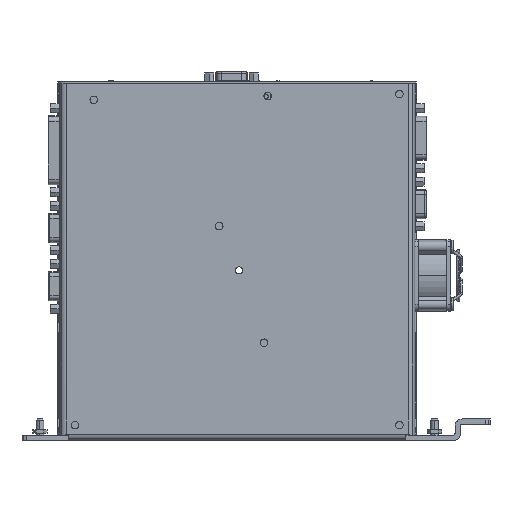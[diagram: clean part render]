
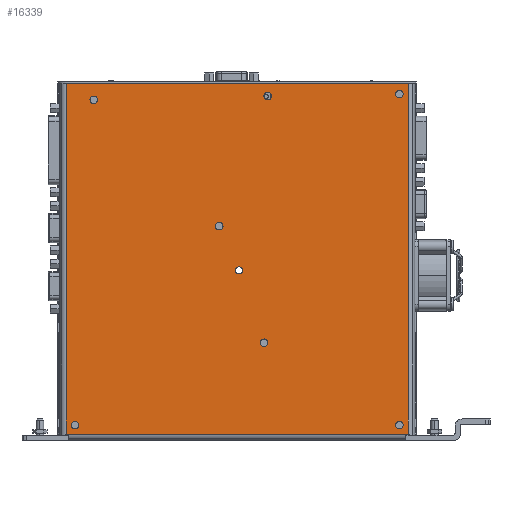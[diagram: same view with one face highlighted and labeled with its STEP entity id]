
A CAD part, left-side view. The second image highlights one B-rep face of the part: STEP entity #16339.
In plain terms, the highlighted planar face has unit normal (-1, 0, 0).
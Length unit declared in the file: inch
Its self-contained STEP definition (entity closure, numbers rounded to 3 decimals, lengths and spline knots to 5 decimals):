
#16339=ADVANCED_FACE('',(#38006,#38007,#38008,#38009,#38010,#38011,#38012,#38013,#38014),#38015,.T.);
#38006=FACE_OUTER_BOUND('',#75015,.T.);
#38007=FACE_BOUND('',#75016,.T.);
#38008=FACE_BOUND('',#75017,.T.);
#38009=FACE_BOUND('',#75018,.T.);
#38010=FACE_BOUND('',#75019,.T.);
#38011=FACE_BOUND('',#75020,.T.);
#38012=FACE_BOUND('',#75021,.T.);
#38013=FACE_BOUND('',#75022,.T.);
#38014=FACE_BOUND('',#75023,.T.);
#38015=PLANE('',#75024);
#75015=EDGE_LOOP('',(#137930,#137931,#137932,#137933));
#75016=EDGE_LOOP('',(#137934,#137935));
#75017=EDGE_LOOP('',(#137936,#137937));
#75018=EDGE_LOOP('',(#137938,#137939));
#75019=EDGE_LOOP('',(#137940,#137941));
#75020=EDGE_LOOP('',(#137942,#137943));
#75021=EDGE_LOOP('',(#137944,#137945));
#75022=EDGE_LOOP('',(#137946,#137947));
#75023=EDGE_LOOP('',(#137948,#137949));
#75024=AXIS2_PLACEMENT_3D('',#137950,#137951,#137952);
#137930=ORIENTED_EDGE('',*,*,#202409,.F.);
#137931=ORIENTED_EDGE('',*,*,#202410,.F.);
#137932=ORIENTED_EDGE('',*,*,#188056,.F.);
#137933=ORIENTED_EDGE('',*,*,#202411,.F.);
#137934=ORIENTED_EDGE('',*,*,#201137,.T.);
#137935=ORIENTED_EDGE('',*,*,#190752,.T.);
#137936=ORIENTED_EDGE('',*,*,#202412,.T.);
#137937=ORIENTED_EDGE('',*,*,#190905,.T.);
#137938=ORIENTED_EDGE('',*,*,#200509,.F.);
#137939=ORIENTED_EDGE('',*,*,#202413,.F.);
#137940=ORIENTED_EDGE('',*,*,#190064,.F.);
#137941=ORIENTED_EDGE('',*,*,#193921,.F.);
#137942=ORIENTED_EDGE('',*,*,#188835,.F.);
#137943=ORIENTED_EDGE('',*,*,#202414,.F.);
#137944=ORIENTED_EDGE('',*,*,#202415,.F.);
#137945=ORIENTED_EDGE('',*,*,#202416,.F.);
#137946=ORIENTED_EDGE('',*,*,#202417,.F.);
#137947=ORIENTED_EDGE('',*,*,#202418,.F.);
#137948=ORIENTED_EDGE('',*,*,#188224,.F.);
#137949=ORIENTED_EDGE('',*,*,#199164,.F.);
#137950=CARTESIAN_POINT('',(-0.17717,5.55118,3.26764));
#137951=DIRECTION('',(-1.0,0.0,0.0));
#137952=DIRECTION('',(0.0,0.0,1.0));
#188056=EDGE_CURVE('',#220556,#220558,#220559,.T.);
#188224=EDGE_CURVE('',#220848,#220843,#220850,.T.);
#188835=EDGE_CURVE('',#221915,#221910,#221917,.T.);
#190064=EDGE_CURVE('',#224104,#224099,#224106,.T.);
#190752=EDGE_CURVE('',#225298,#225296,#225299,.T.);
#190905=EDGE_CURVE('',#225565,#225562,#225566,.T.);
#193921=EDGE_CURVE('',#224099,#224104,#230665,.T.);
#199164=EDGE_CURVE('',#220843,#220848,#238930,.T.);
#200509=EDGE_CURVE('',#240979,#240977,#240981,.T.);
#201137=EDGE_CURVE('',#225296,#225298,#241937,.T.);
#202409=EDGE_CURVE('',#243911,#243912,#243913,.T.);
#202410=EDGE_CURVE('',#220558,#243911,#243914,.T.);
#202411=EDGE_CURVE('',#243912,#220556,#243915,.T.);
#202412=EDGE_CURVE('',#225562,#225565,#243916,.T.);
#202413=EDGE_CURVE('',#240977,#240979,#243917,.T.);
#202414=EDGE_CURVE('',#221910,#221915,#243918,.T.);
#202415=EDGE_CURVE('',#243919,#243920,#243921,.T.);
#202416=EDGE_CURVE('',#243920,#243919,#243922,.T.);
#202417=EDGE_CURVE('',#243923,#243924,#243925,.T.);
#202418=EDGE_CURVE('',#243924,#243923,#243926,.T.);
#220556=VERTEX_POINT('',#267446);
#220558=VERTEX_POINT('',#267448);
#220559=LINE('',#267449,#267450);
#220843=VERTEX_POINT('',#267838);
#220848=VERTEX_POINT('',#267844);
#220850=CIRCLE('',#267847,0.08268);
#221910=VERTEX_POINT('',#269366);
#221915=VERTEX_POINT('',#269372);
#221917=CIRCLE('',#269375,0.08268);
#224099=VERTEX_POINT('',#272659);
#224104=VERTEX_POINT('',#272665);
#224106=CIRCLE('',#272668,0.08268);
#225296=VERTEX_POINT('',#274426);
#225298=VERTEX_POINT('',#274429);
#225299=CIRCLE('',#274430,0.08268);
#225562=VERTEX_POINT('',#274801);
#225565=VERTEX_POINT('',#274805);
#225566=CIRCLE('',#274806,0.07874);
#230665=CIRCLE('',#282421,0.08268);
#238930=CIRCLE('',#295099,0.08268);
#240977=VERTEX_POINT('',#298265);
#240979=VERTEX_POINT('',#298268);
#240981=CIRCLE('',#298271,0.08268);
#241937=CIRCLE('',#299714,0.08268);
#243911=VERTEX_POINT('',#302762);
#243912=VERTEX_POINT('',#302763);
#243913=LINE('',#302764,#302765);
#243914=LINE('',#302766,#302767);
#243915=LINE('',#302768,#302769);
#243916=CIRCLE('',#302770,0.07874);
#243917=CIRCLE('',#302771,0.08268);
#243918=CIRCLE('',#302772,0.08268);
#243919=VERTEX_POINT('',#302773);
#243920=VERTEX_POINT('',#302774);
#243921=CIRCLE('',#302775,0.08268);
#243922=CIRCLE('',#302776,0.08268);
#243923=VERTEX_POINT('',#302777);
#243924=VERTEX_POINT('',#302778);
#243925=CIRCLE('',#302779,0.08268);
#243926=CIRCLE('',#302780,0.08268);
#267446=CARTESIAN_POINT('',(-0.17717,9.30709,7.3622));
#267448=CARTESIAN_POINT('',(-0.17717,1.79528,7.3622));
#267449=CARTESIAN_POINT('',(-0.17717,9.30709,7.3622));
#267450=VECTOR('',#330426,1.0);
#267838=CARTESIAN_POINT('',(-0.17717,1.90551,7.12992));
#267844=CARTESIAN_POINT('',(-0.17717,2.07087,7.12992));
#267847=AXIS2_PLACEMENT_3D('',#330624,#330625,#330626);
#269366=CARTESIAN_POINT('',(-0.17717,5.8622,4.23228));
#269372=CARTESIAN_POINT('',(-0.17717,6.02756,4.23228));
#269375=AXIS2_PLACEMENT_3D('',#331316,#331317,#331318);
#272659=CARTESIAN_POINT('',(-0.17717,4.79921,7.08661));
#272665=CARTESIAN_POINT('',(-0.17717,4.96457,7.08661));
#272668=AXIS2_PLACEMENT_3D('',#332682,#332683,#332684);
#274426=CARTESIAN_POINT('',(-0.17717,4.87717,1.67323));
#274429=CARTESIAN_POINT('',(-0.17717,5.04252,1.67323));
#274430=AXIS2_PLACEMENT_3D('',#333424,#333425,#333426);
#274801=CARTESIAN_POINT('',(-0.17717,5.50906,3.34047));
#274805=CARTESIAN_POINT('',(-0.17717,5.50906,3.18299));
#274806=AXIS2_PLACEMENT_3D('',#333623,#333624,#333625);
#282421=AXIS2_PLACEMENT_3D('',#336950,#336951,#336952);
#295099=AXIS2_PLACEMENT_3D('',#342571,#342572,#342573);
#298265=CARTESIAN_POINT('',(-0.17717,1.90551,-0.1378));
#298268=CARTESIAN_POINT('',(-0.17717,2.07087,-0.1378));
#298271=AXIS2_PLACEMENT_3D('',#343954,#343955,#343956);
#299714=AXIS2_PLACEMENT_3D('',#344672,#344673,#344674);
#302762=CARTESIAN_POINT('',(-0.17717,1.79528,-0.33071));
#302763=CARTESIAN_POINT('',(-0.17717,9.30709,-0.33071));
#302764=CARTESIAN_POINT('',(-0.17717,1.79528,-0.33071));
#302765=VECTOR('',#346028,1.0);
#302766=CARTESIAN_POINT('',(-0.17717,1.79528,7.3622));
#302767=VECTOR('',#346029,1.0);
#302768=CARTESIAN_POINT('',(-0.17717,9.30709,-0.33071));
#302769=VECTOR('',#346030,1.0);
#302770=AXIS2_PLACEMENT_3D('',#346031,#346032,#346033);
#302771=AXIS2_PLACEMENT_3D('',#346034,#346035,#346036);
#302772=AXIS2_PLACEMENT_3D('',#346037,#346038,#346039);
#302773=CARTESIAN_POINT('',(-0.17717,9.19685,-0.1378));
#302774=CARTESIAN_POINT('',(-0.17717,9.0315,-0.1378));
#302775=AXIS2_PLACEMENT_3D('',#346040,#346041,#346042);
#302776=AXIS2_PLACEMENT_3D('',#346043,#346044,#346045);
#302777=CARTESIAN_POINT('',(-0.17717,8.78346,7.00787));
#302778=CARTESIAN_POINT('',(-0.17717,8.61811,7.00787));
#302779=AXIS2_PLACEMENT_3D('',#346046,#346047,#346048);
#302780=AXIS2_PLACEMENT_3D('',#346049,#346050,#346051);
#330426=DIRECTION('',(0.0,-1.0,0.0));
#330624=CARTESIAN_POINT('',(-0.17717,1.98819,7.12992));
#330625=DIRECTION('',(-1.0,0.,0.0));
#330626=DIRECTION('',(0.,-1.0,0.0));
#331316=CARTESIAN_POINT('',(-0.17717,5.94488,4.23228));
#331317=DIRECTION('',(-1.0,0.,0.0));
#331318=DIRECTION('',(0.,-1.0,0.0));
#332682=CARTESIAN_POINT('',(-0.17717,4.88189,7.08661));
#332683=DIRECTION('',(-1.0,0.,0.0));
#332684=DIRECTION('',(0.,-1.0,0.0));
#333424=CARTESIAN_POINT('',(-0.17717,4.95984,1.67323));
#333425=DIRECTION('',(1.0,0.,0.0));
#333426=DIRECTION('',(0.,-1.0,0.0));
#333623=CARTESIAN_POINT('',(-0.17717,5.50906,3.26173));
#333624=DIRECTION('',(1.0,0.0,-0.0));
#333625=DIRECTION('',(0.0,0.0,1.0));
#336950=CARTESIAN_POINT('',(-0.17717,4.88189,7.08661));
#336951=DIRECTION('',(-1.0,0.,0.0));
#336952=DIRECTION('',(0.,-1.0,0.0));
#342571=CARTESIAN_POINT('',(-0.17717,1.98819,7.12992));
#342572=DIRECTION('',(-1.0,0.,0.0));
#342573=DIRECTION('',(0.,-1.0,0.0));
#343954=CARTESIAN_POINT('',(-0.17717,1.98819,-0.1378));
#343955=DIRECTION('',(-1.0,0.,0.0));
#343956=DIRECTION('',(0.,-1.0,0.0));
#344672=CARTESIAN_POINT('',(-0.17717,4.95984,1.67323));
#344673=DIRECTION('',(1.0,0.,0.0));
#344674=DIRECTION('',(0.,-1.0,0.0));
#346028=DIRECTION('',(0.0,1.0,0.0));
#346029=DIRECTION('',(0.0,0.0,-1.0));
#346030=DIRECTION('',(0.0,0.0,1.0));
#346031=CARTESIAN_POINT('',(-0.17717,5.50906,3.26173));
#346032=DIRECTION('',(1.0,0.0,-0.0));
#346033=DIRECTION('',(0.0,0.0,1.0));
#346034=CARTESIAN_POINT('',(-0.17717,1.98819,-0.1378));
#346035=DIRECTION('',(-1.0,0.,0.0));
#346036=DIRECTION('',(0.,-1.0,0.0));
#346037=CARTESIAN_POINT('',(-0.17717,5.94488,4.23228));
#346038=DIRECTION('',(-1.0,0.,0.0));
#346039=DIRECTION('',(0.,-1.0,0.0));
#346040=CARTESIAN_POINT('',(-0.17717,9.11417,-0.1378));
#346041=DIRECTION('',(-1.0,0.,0.0));
#346042=DIRECTION('',(0.,-1.0,0.0));
#346043=CARTESIAN_POINT('',(-0.17717,9.11417,-0.1378));
#346044=DIRECTION('',(-1.0,0.,0.0));
#346045=DIRECTION('',(0.,-1.0,0.0));
#346046=CARTESIAN_POINT('',(-0.17717,8.70079,7.00787));
#346047=DIRECTION('',(-1.0,0.,0.0));
#346048=DIRECTION('',(0.,-1.0,0.0));
#346049=CARTESIAN_POINT('',(-0.17717,8.70079,7.00787));
#346050=DIRECTION('',(-1.0,0.,0.0));
#346051=DIRECTION('',(0.,-1.0,0.0));
